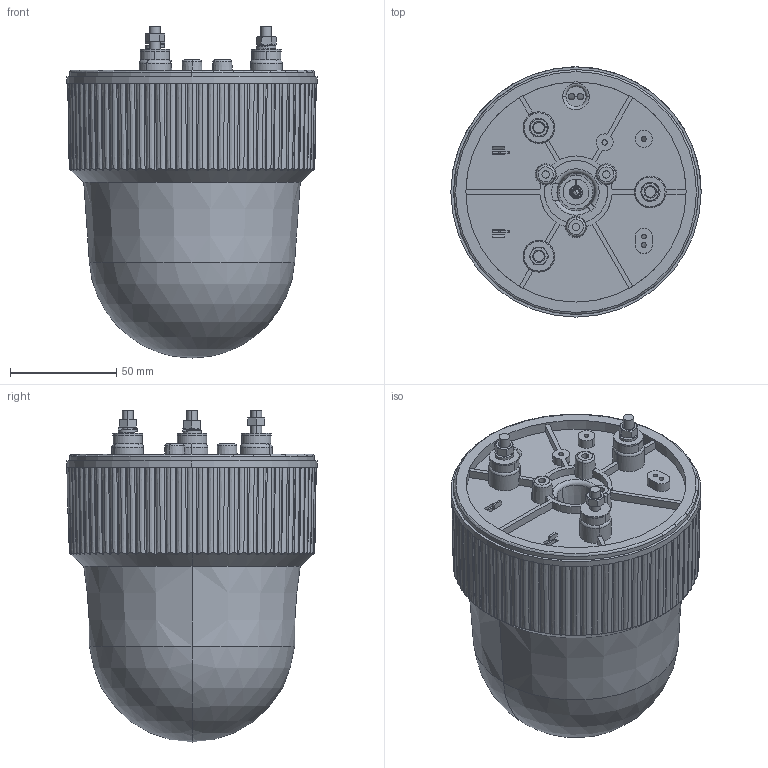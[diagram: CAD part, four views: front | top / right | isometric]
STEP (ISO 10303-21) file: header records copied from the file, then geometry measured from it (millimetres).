
FILE_DESCRIPTION((''),'2;1');
FILE_NAME('ASM0010_ASM','2016-06-17T',('Administrator'),(''),'PRO/ENGINEER BY PARAMETRIC TECHNOLOGY CORPORATION, 2012360','PRO/ENGINEER BY PARAMETRIC TECHNOLOGY CORPORATION, 2012360','');
FILE_SCHEMA(('CONFIG_CONTROL_DESIGN'));
Length unit declared in the file: millimetre
Products named in the file (3): PRT0008; ASM0011_ASM; ASM0010_ASM
Assembly tree (2 placements, depth 3):
  ASM0010_ASM
    ASM0011_ASM
      PRT0008
Bounding box: 118 x 118 x 156.5 mm (x, y, z)
Volume: 184998.6 mm3; surface area: 160808.2 mm2
Topology: 1 solids, 8 shells, 1274 faces, 3567 edges, 2358 vertices
Faces by surface type: cylinder 401, plane 306, bspline 197, extrusion 161, cone 148, torus 49, sphere 12
Entity records: 63999 total; most frequent: CARTESIAN_POINT 33198, ORIENTED_EDGE 7112, DIRECTION 5294, EDGE_CURVE 3556, VERTEX_POINT 2358, AXIS2_PLACEMENT_3D 1966, B_SPLINE_CURVE_WITH_KNOTS 1472, EDGE_LOOP 1430
